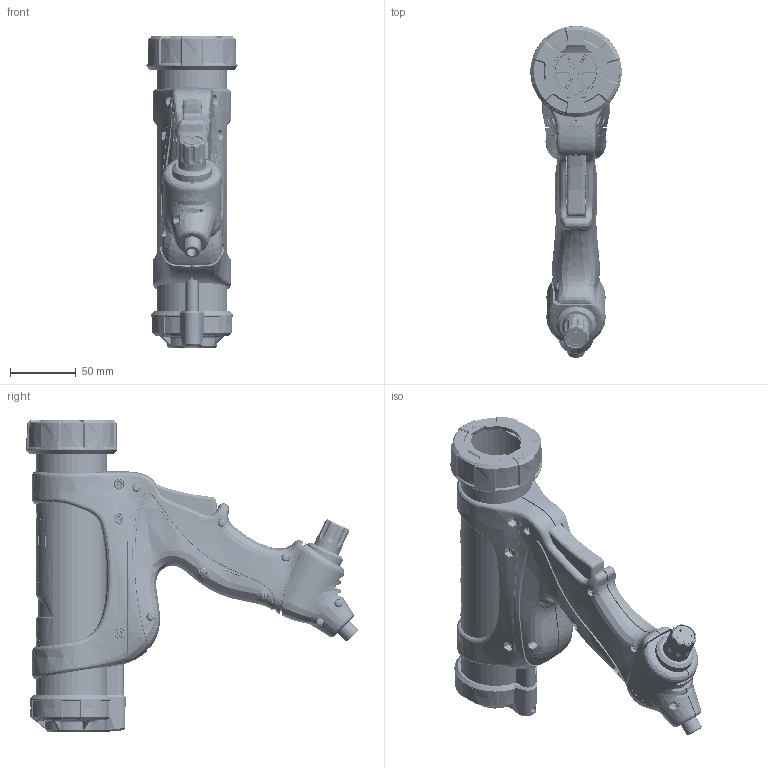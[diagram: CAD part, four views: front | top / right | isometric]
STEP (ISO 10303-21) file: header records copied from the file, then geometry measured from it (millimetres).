
FILE_DESCRIPTION((''),'2;1');
FILE_NAME('C:\1 WIP\1714379 HD10 Pneumatic 300ml Cartridge Dispenser SG-1207-15049\1714379 HD10 Pneumatic 300ml Cartridge Dispenser.stp','2012-07-26T07:24:25',('patch'),(''),'Autodesk Inventor 2012','Autodesk Inventor 2012','');
FILE_SCHEMA(('AUTOMOTIVE_DESIGN { 1 0 10303 214 1 1 1 1 }'));
Length unit declared in the file: millimetre
Products named in the file (21): 1714379 HD10 Pneumatic 300ml Cartridge Dispenser; 1714379 Handle 2M2577; 1714379 Handle 2M2598; 1714379 Trigger 2M2580; 1714379 Screw 2F1649; 1714379 Screw 2F1603; 1714379 Regulator Housing 2M2574_NO_LOGO; 1714379 Regulator Housing 2M2595_NO_LOGO; 1714379 Inlet Fitting 2C1475; 1714379 Regulator Mount 2M2610; 1714379 Regulator Mount 2M2597; 1714379 Barrel Housing 2M2581; 1714379 Screw 2F1767; 1714379 Screw 2F1629; 1714379 Hex Nut 2F1203; 1714379 Tube Cover 3XT011; 1714379 Rear Cap 2M2583; 1714379 Barrel 7B3801; 1714379 Barrel Thread Sleeve 2R1001; 1714379 Front Retainer Cap 2C1801; 1714379 Regulator Knob Insert 2M1037
Assembly tree (29 placements, depth 2):
  1714379 HD10 Pneumatic 300ml Cartridge Dispenser
    1714379 Handle 2M2577
    1714379 Handle 2M2598
    1714379 Trigger 2M2580
    1714379 Screw 2F1649  x7
    1714379 Screw 2F1603
    1714379 Regulator Housing 2M2574_NO_LOGO
    1714379 Regulator Housing 2M2595_NO_LOGO
    1714379 Inlet Fitting 2C1475
    1714379 Regulator Mount 2M2610
    1714379 Regulator Mount 2M2597
    1714379 Barrel Housing 2M2581
    1714379 Screw 2F1767
    1714379 Screw 2F1629  x2
    1714379 Hex Nut 2F1203  x3
    1714379 Tube Cover 3XT011
    1714379 Rear Cap 2M2583
    1714379 Barrel 7B3801
    1714379 Barrel Thread Sleeve 2R1001
    1714379 Front Retainer Cap 2C1801
    1714379 Regulator Knob Insert 2M1037
Bounding box: 69.58 x 252.42 x 237.57 mm (x, y, z)
Volume: 318115.6 mm3; surface area: 289308.5 mm2
Topology: 28 solids, 29 shells, 6287 faces, 17462 edges, 11575 vertices
Faces by surface type: bspline 3014, plane 2074, cylinder 682, cone 429, torus 70, sphere 18
Full cylindrical faces by diameter (mm): 2 x1, 2.5 x1, 2.9 x1, 3 x1, 3.3 x3, 3.338 x7, 4 x4, 4.2 x2, 4.65 x1, 4.85 x1, 5.7 x7, 5.8 x1, 7.3 x1, 7.8 x3, 9.8 x1, 13.15 x1, 13.4 x1, 16.1 x4, 16.4 x1, 20 x1, 23 x1, 29.9 x3, 36.6 x1, 50.8 x1, 54 x1, 54.2 x1, 58.5 x1, 61 x2
Entity records: 681670 total; most frequent: CARTESIAN_POINT 550549, ORIENTED_EDGE 32134, DIRECTION 17324, EDGE_CURVE 16067, VERTEX_POINT 10722, B_SPLINE_CURVE_WITH_KNOTS 7533, EDGE_LOOP 6556, AXIS2_PLACEMENT_3D 5949
